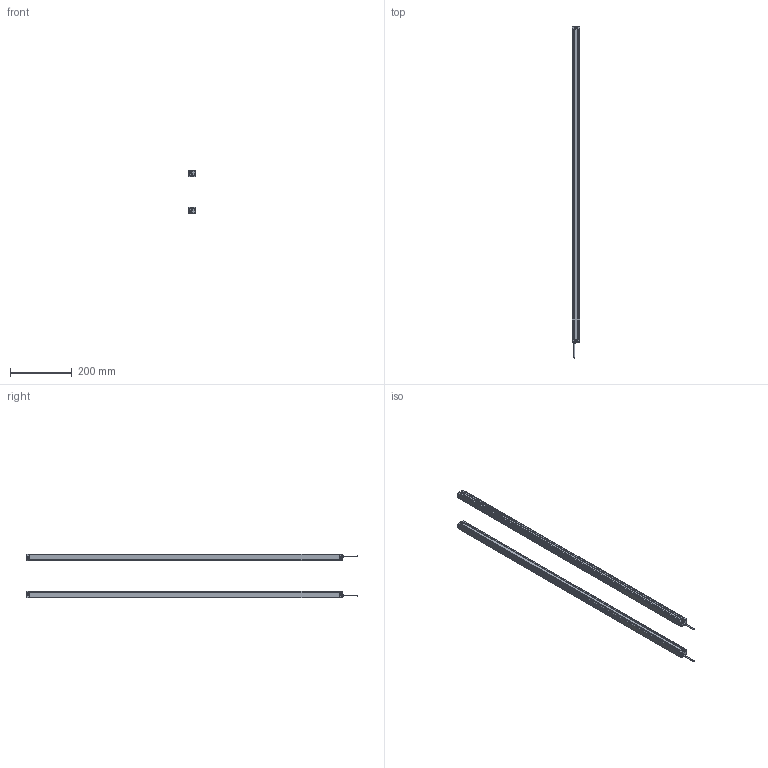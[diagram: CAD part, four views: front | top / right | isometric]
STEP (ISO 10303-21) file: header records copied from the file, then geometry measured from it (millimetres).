
FILE_DESCRIPTION (( 'STEP AP214' ), '1' );
FILE_NAME ('MTC5020.STEP', '2022-08-02T09:06:19', ( '' ), ( '' ), 'SwSTEP 2.0', 'SolidWorks 2018', '' );
FILE_SCHEMA (( 'AUTOMOTIVE_DESIGN' ));
Length unit declared in the file: millimetre
Products named in the file (5): P02^MTC; MTC waike^MTC; P01^MTC; MTC5020; 噩砃P02^MTC
Assembly tree (6 placements, depth 2):
  MTC5020
    MTC waike^MTC  x2
    P01^MTC  x2
    P02^MTC
    噩砃P02^MTC
Bounding box: 25 x 1072 x 141.4 mm (x, y, z)
Volume: 336826.4 mm3; surface area: 466524.9 mm2
Topology: 8 solids, 8 shells, 480 faces, 1396 edges, 924 vertices
Faces by surface type: plane 272, cylinder 208
Entity records: 10886 total; most frequent: DIRECTION 1881, CARTESIAN_POINT 1878, ORIENTED_EDGE 1846, EDGE_CURVE 923, AXIS2_PLACEMENT_3D 637, VERTEX_POINT 610, LINE 607, VECTOR 607
